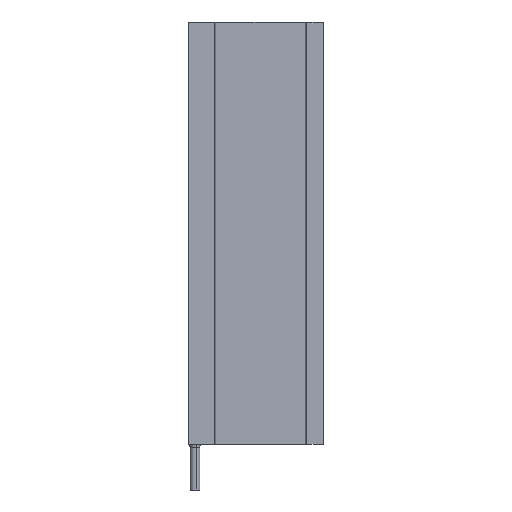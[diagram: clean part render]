
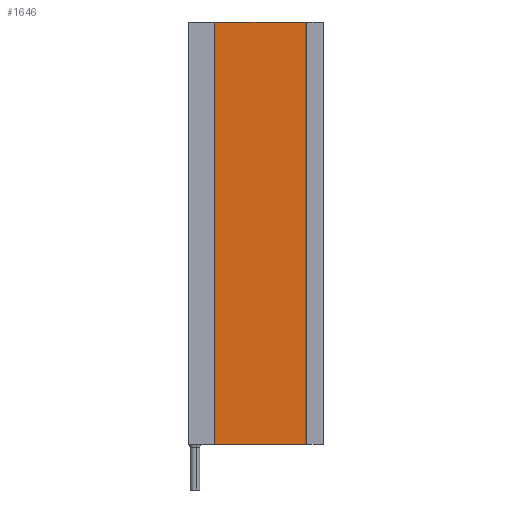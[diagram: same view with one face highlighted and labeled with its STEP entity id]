
A CAD part, left-side view. The second image highlights one B-rep face of the part: STEP entity #1646.
In plain terms, the highlighted planar face has unit normal (-1, 0, 0).
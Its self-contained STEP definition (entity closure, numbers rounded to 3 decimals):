
#7 = DIRECTION ( 'NONE',  ( 0., -1., 0. ) ) ;
#225 = CARTESIAN_POINT ( 'NONE',  ( 66.6, 298.704, 605.517 ) ) ;
#381 = VECTOR ( 'NONE', #1948, 1000. ) ;
#399 = CARTESIAN_POINT ( 'NONE',  ( 66.6, 231.204, 605.517 ) ) ;
#463 = CARTESIAN_POINT ( 'NONE',  ( 66.6, 298.704, 280.517 ) ) ;
#580 = ORIENTED_EDGE ( 'NONE', *, *, #719, .F. ) ;
#612 = LINE ( 'NONE', #2457, #3331 ) ;
#675 = VECTOR ( 'NONE', #3181, 1000. ) ;
#719 = EDGE_CURVE ( 'NONE', #2373, #2710, #612, .T. ) ;
#747 = LINE ( 'NONE', #463, #675 ) ;
#822 = EDGE_CURVE ( 'NONE', #2710, #1583, #2250, .T. ) ;
#1049 = EDGE_CURVE ( 'NONE', #3089, #2373, #1800, .T. ) ;
#1359 = ORIENTED_EDGE ( 'NONE', *, *, #822, .F. ) ;
#1455 = CARTESIAN_POINT ( 'NONE',  ( 66.6, 231.204, 605.517 ) ) ;
#1499 = ORIENTED_EDGE ( 'NONE', *, *, #1049, .F. ) ;
#1509 = CARTESIAN_POINT ( 'NONE',  ( 66.6, 300.204, 280.517 ) ) ;
#1583 = VERTEX_POINT ( 'NONE', #3070 ) ;
#1646 = ADVANCED_FACE ( 'NONE', ( #2921 ), #2636, .F. ) ;
#1800 = LINE ( 'NONE', #1509, #3162 ) ;
#1896 = CARTESIAN_POINT ( 'NONE',  ( 66.6, 300.204, 605.517 ) ) ;
#1948 = DIRECTION ( 'NONE',  ( 0., 0., -1. ) ) ;
#2002 = AXIS2_PLACEMENT_3D ( 'NONE', #225, #2671, #3001 ) ;
#2162 = DIRECTION ( 'NONE',  ( 0., 0., 1. ) ) ;
#2250 = LINE ( 'NONE', #399, #381 ) ;
#2373 = VERTEX_POINT ( 'NONE', #1896 ) ;
#2457 = CARTESIAN_POINT ( 'NONE',  ( 66.6, 298.704, 605.517 ) ) ;
#2548 = EDGE_LOOP ( 'NONE', ( #2714, #1359, #580, #1499 ) ) ;
#2636 = PLANE ( 'NONE',  #2002 ) ;
#2671 = DIRECTION ( 'NONE',  ( 1., 0., 0. ) ) ;
#2710 = VERTEX_POINT ( 'NONE', #1455 ) ;
#2714 = ORIENTED_EDGE ( 'NONE', *, *, #3501, .T. ) ;
#2836 = CARTESIAN_POINT ( 'NONE',  ( 66.6, 300.204, 280.517 ) ) ;
#2921 = FACE_OUTER_BOUND ( 'NONE', #2548, .T. ) ;
#3001 = DIRECTION ( 'NONE',  ( 0., 0., -1. ) ) ;
#3070 = CARTESIAN_POINT ( 'NONE',  ( 66.6, 231.204, 280.517 ) ) ;
#3089 = VERTEX_POINT ( 'NONE', #2836 ) ;
#3162 = VECTOR ( 'NONE', #2162, 1000. ) ;
#3181 = DIRECTION ( 'NONE',  ( 0., -1., 0. ) ) ;
#3331 = VECTOR ( 'NONE', #7, 1000. ) ;
#3501 = EDGE_CURVE ( 'NONE', #3089, #1583, #747, .T. ) ;
